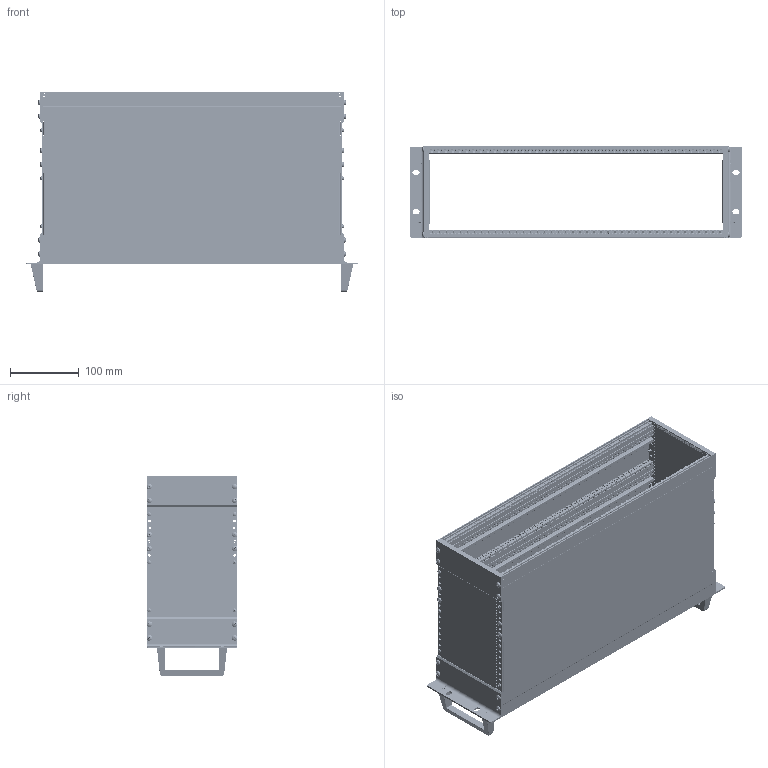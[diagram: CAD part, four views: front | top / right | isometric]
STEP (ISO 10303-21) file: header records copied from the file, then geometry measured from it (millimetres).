
FILE_DESCRIPTION (( 'STEP AP203' ), '1' );
FILE_NAME ('2384-2450.STEP', '2026-02-05T03:20:57', ( '' ), ( '' ), 'SwSTEP 2.0', 'SolidWorks 2013', '' );
FILE_SCHEMA (( 'CONFIG_CONTROL_DESIGN' ));
Length unit declared in the file: millimetre
Products named in the file (15): 84TEヶ褽そ敖銅; 3U陔ㄗ遵ㄘ綴楊擘; 3U參忒-250; 3U-I倰そ敖銅; 3U陔ㄗ遵ㄘヶ楊擘; 84TE蹟謂沭; GBT818十字槽盘头螺钉_M4×12; GBT819.1十字槽沉头螺钉_M5×10; GBT818十字槽盘头螺钉_M3×8; 2384-2450; 84TE陔倰第綴褽; 3U245耜啣; 84TE陔倰符ヶ褽; 橈埽沭; 84TE214陔祥籵瑞裔啣
Assembly tree (77 placements, depth 2):
  2384-2450
    3U245耜啣  x2
    84TE214陔祥籵瑞裔啣  x2
    3U陔ㄗ遵ㄘヶ楊擘  x2
    3U陔ㄗ遵ㄘ綴楊擘  x2
    84TE陔倰符ヶ褽  x4
    84TE陔倰第綴褽  x2
    3U參忒-250  x2
    84TE蹟謂沭  x6
    橈埽沭  x8
    GBT818十字槽盘头螺钉_M4×12  x24
    GBT818十字槽盘头螺钉_M3×8  x12
    GBT819.1十字槽沉头螺钉_M5×10  x4
    3U-I倰そ敖銅  x3
    84TEヶ褽そ敖銅  x4
Bounding box: 482.6 x 132 x 290 mm (x, y, z)
Volume: 979703.5 mm3; surface area: 1176439.6 mm2
Topology: 77 solids, 77 shells, 25060 faces, 63366 edges, 37902 vertices
Faces by surface type: plane 14626, cylinder 7770, bspline 2238, cone 244, sphere 94, torus 88
Entity records: 198150 total; most frequent: CARTESIAN_POINT 43635, ORIENTED_EDGE 32094, DIRECTION 30837, EDGE_CURVE 16047, VECTOR 10677, LINE 10677, AXIS2_PLACEMENT_3D 10080, VERTEX_POINT 9636
